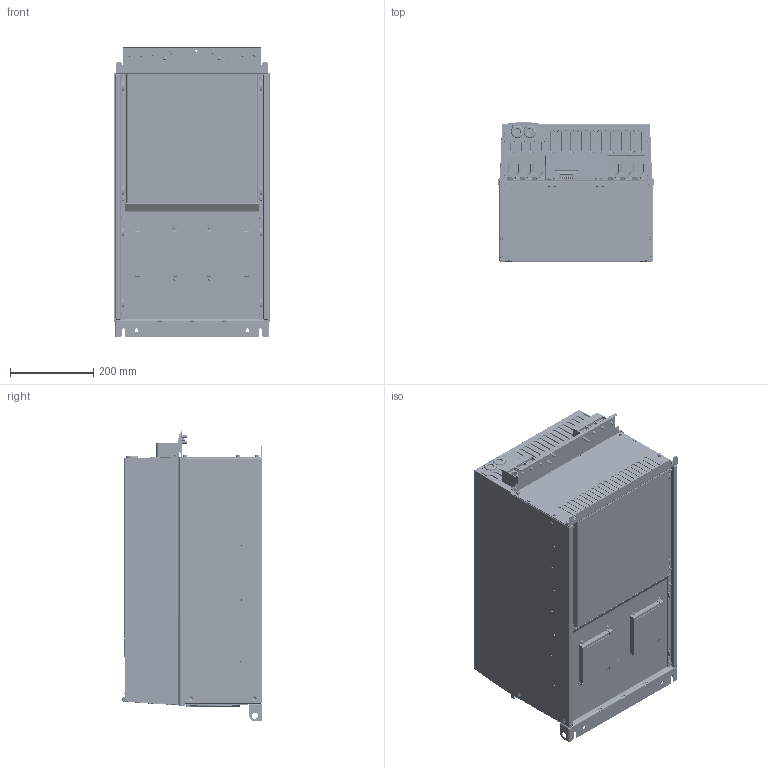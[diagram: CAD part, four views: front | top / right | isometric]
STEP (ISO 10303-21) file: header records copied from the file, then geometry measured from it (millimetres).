
FILE_DESCRIPTION((''),'2;1');
FILE_NAME('DANFOSS-FC101-H8-IP20','2011-09-22T',('cstephenkumar'),('Be-Atch INC. 1993'),'PRO/ENGINEER BY PARAMETRIC TECHNOLOGY CORPORATION, 2009360','PRO/ENGINEER BY PARAMETRIC TECHNOLOGY CORPORATION, 2009360','');
FILE_SCHEMA(('AUTOMOTIVE_DESIGN { 1 0 10303 214 1 1 1 1 }'));
Products named in the file (1): DANFOSS-FC101-H8-IP20
Bounding box: 375 x 335.09 x 697.5 mm (x, y, z)
Volume: 70695915.6 mm3; surface area: 1480422.4 mm2
Topology: 2 solids, 33 shells, 5234 faces, 13791 edges, 8836 vertices
Faces by surface type: plane 2217, cylinder 1758, cone 394, torus 330, bspline 312, extrusion 133, sphere 90
Entity records: 206846 total; most frequent: CARTESIAN_POINT 70479, ORIENTED_EDGE 27418, DIRECTION 25203, EDGE_CURVE 13709, AXIS2_PLACEMENT_3D 8900, VERTEX_POINT 8836, VECTOR 7403, LINE 7270
